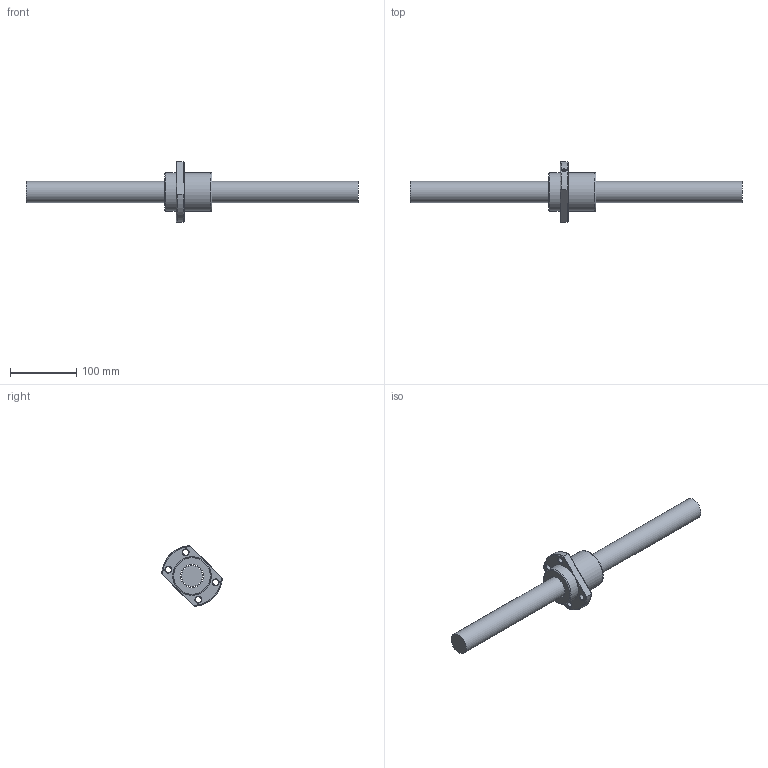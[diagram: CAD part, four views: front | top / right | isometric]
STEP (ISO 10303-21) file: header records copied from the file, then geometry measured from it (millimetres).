
FILE_DESCRIPTION (( 'STEP AP203' ), '1' );
FILE_NAME ('SFY03264-1.6.step', '2024-05-21T08:57:17', ( '' ), ( '' ), 'SwSTEP 2.0', 'SolidWorks 2022', '' );
FILE_SCHEMA (( 'CONFIG_CONTROL_DESIGN' ));
Length unit declared in the file: millimetre
Products named in the file (1): SFY03264-1.6
Bounding box: 500 x 91.74 x 91.74 mm (x, y, z)
Volume: 547681.3 mm3; surface area: 82583.2 mm2
Topology: 2 solids, 2 shells, 51 faces, 124 edges, 79 vertices
Faces by surface type: cylinder 18, plane 13, cone 9, torus 6, bspline 5
Full cylindrical faces by diameter (mm): 4 x1, 5 x6, 9 x4, 32 x1, 34.8 x1, 58 x2
Entity records: 3027 total; most frequent: CARTESIAN_POINT 2066, DIRECTION 170, ORIENTED_EDGE 156, EDGE_LOOP 80, EDGE_CURVE 78, AXIS2_PLACEMENT_3D 77, VERTEX_POINT 62, FACE_OUTER_BOUND 57
